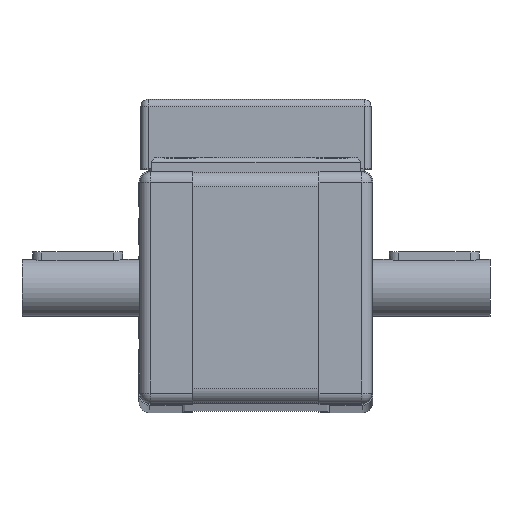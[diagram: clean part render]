
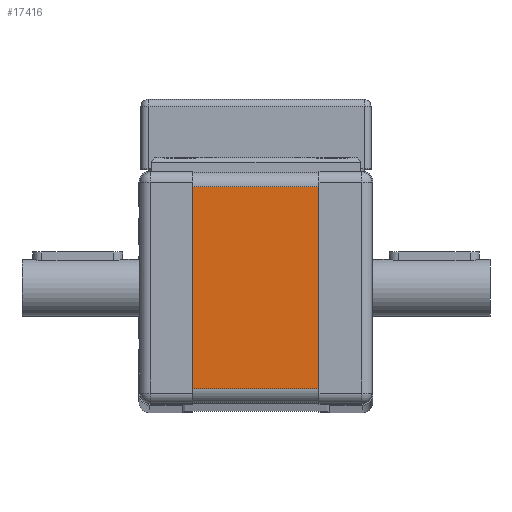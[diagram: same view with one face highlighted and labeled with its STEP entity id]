
A CAD part, top view. The second image highlights one B-rep face of the part: STEP entity #17416.
In plain terms, the highlighted planar face has unit normal (0, 0, 1) as drawn and (1, 0, 0) by its records, which use the part's own axes.
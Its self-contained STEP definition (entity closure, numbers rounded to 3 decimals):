
#421=LINE('',#23158,#1655);
#427=LINE('',#23174,#1661);
#444=LINE('',#23242,#1678);
#445=LINE('',#23244,#1679);
#1655=VECTOR('',#19518,1000.);
#1661=VECTOR('',#19532,1000.);
#1678=VECTOR('',#19625,1000.);
#1679=VECTOR('',#19628,1000.);
#3036=ORIENTED_EDGE('',*,*,#6202,.F.);
#3037=ORIENTED_EDGE('',*,*,#6236,.F.);
#3038=ORIENTED_EDGE('',*,*,#6194,.T.);
#3039=ORIENTED_EDGE('',*,*,#6237,.T.);
#6194=EDGE_CURVE('',#7819,#7818,#421,.T.);
#6202=EDGE_CURVE('',#7824,#7825,#427,.T.);
#6236=EDGE_CURVE('',#7819,#7824,#444,.T.);
#6237=EDGE_CURVE('',#7818,#7825,#445,.T.);
#7818=VERTEX_POINT('',#23157);
#7819=VERTEX_POINT('',#23159);
#7824=VERTEX_POINT('',#23173);
#7825=VERTEX_POINT('',#23175);
#9342=EDGE_LOOP('',(#3036,#3037,#3038,#3039));
#10406=FACE_BOUND('',#9342,.T.);
#11455=PLANE('',#18262);
#17416=ADVANCED_FACE('',(#10406),#11455,.T.);
#18262=AXIS2_PLACEMENT_3D('',#23243,#19626,#19627);
#19518=DIRECTION('',(0.,-1.,0.));
#19532=DIRECTION('',(0.,-1.,0.));
#19625=DIRECTION('',(0.,0.,-1.));
#19626=DIRECTION('',(1.,0.,0.));
#19627=DIRECTION('',(0.,0.,-1.));
#19628=DIRECTION('',(0.,0.,-1.));
#23157=CARTESIAN_POINT('',(34.75,-28.,17.5));
#23158=CARTESIAN_POINT('',(34.75,28.,17.5));
#23159=CARTESIAN_POINT('',(34.75,28.,17.5));
#23173=CARTESIAN_POINT('',(34.75,28.,-17.5));
#23174=CARTESIAN_POINT('',(34.75,28.,-17.5));
#23175=CARTESIAN_POINT('',(34.75,-28.,-17.5));
#23242=CARTESIAN_POINT('',(34.75,28.,17.5));
#23243=CARTESIAN_POINT('',(34.75,28.,17.5));
#23244=CARTESIAN_POINT('',(34.75,-28.,17.5));
